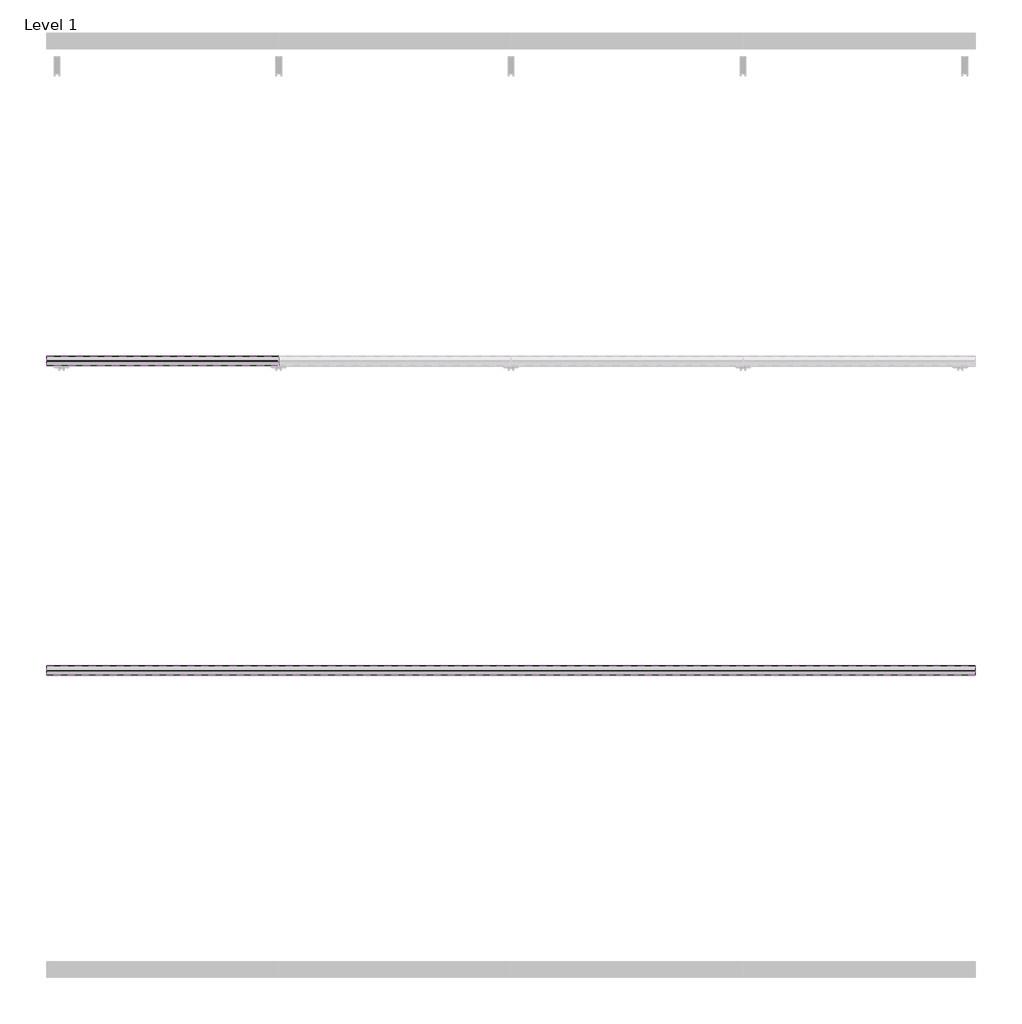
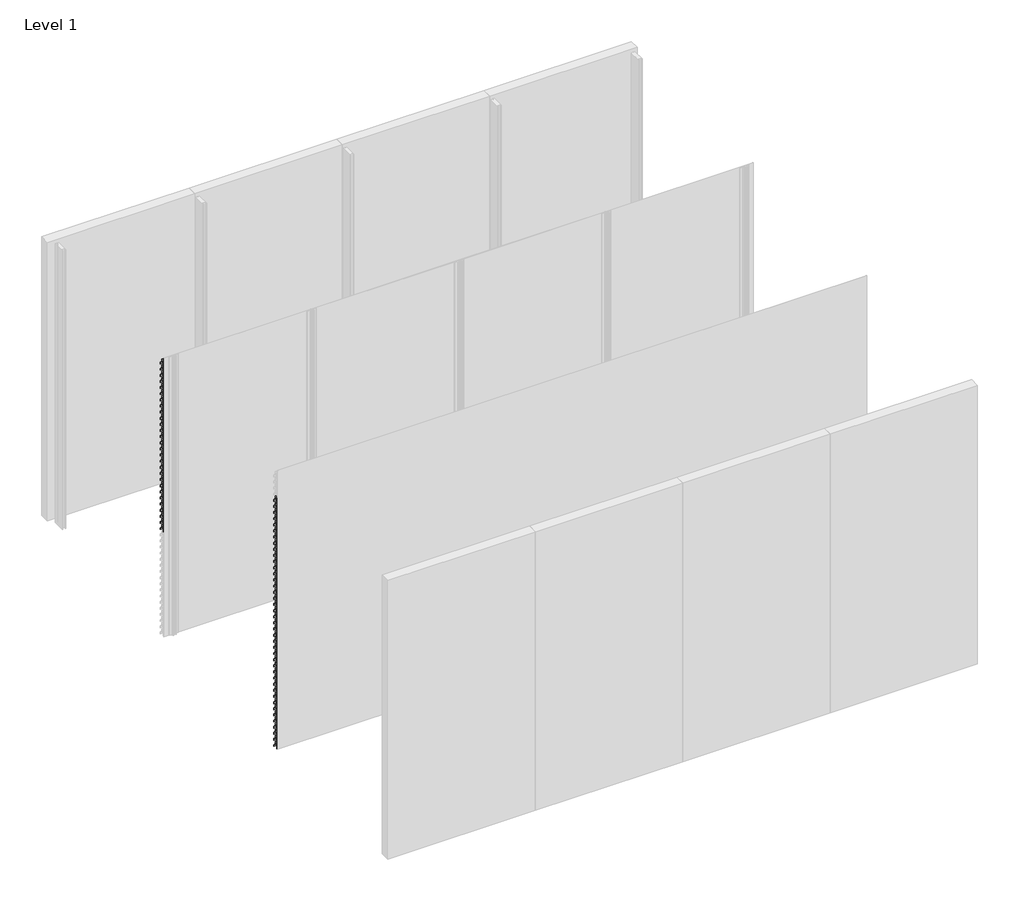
# One storey, part 3 of 35: 69 proxies.
"""IFC4 building model written with IfcOpenShell, lengths in millimetres."""

from ifc_helpers import new_model, si_unit, frame, origin, place, context, project, spatial, polyline, outline, extrude, element, save

model = new_model("IFC4")

# Units and contexts
model_context = context("Model", 3, world=origin())
ifc_project = project(units=[si_unit("LENGTHUNIT", "METRE", prefix="MILLI")], contexts=[model_context])

# Site, building, storey
site = spatial("IfcSite", under=ifc_project)
building = spatial("IfcBuilding", under=site)
storey = spatial("IfcBuildingStorey", under=building, Name="Level 1", Elevation=0.0)

# Proxies
placement = place(None, origin())
element("IfcBuildingElementProxy", 1, Name="Wall Sweeps", at=placement, inside=storey, context=model_context, shape_type="SweptSolid", body=[
    extrude(outline(polyline([(-53936.0, 2916.0), (-53936.0, 2896.0), (-53937.25, 2896.0), (-53937.25, 2915.4342979), (-53968.1138939, 2948.531772), (-53996.7, 2928.4392868), (-53996.7, 2909.6629874), (-53998.0, 2908.8506572), (-53998.0, 2929.1145472), (-53968.537525, 2949.823011), (-53968.537525, 2970.0), (-53967.1772624, 2970.0), (-53967.1772624, 2949.4335207), (-53936.0, 2916.0)])), frame((0.0, 0.0, 0.0), z_axis=(1.0, 0.0, 0.0), x_axis=(0.0, 1.0, 0.0)), (0.0, 0.0, 1.0), 1500.0),
])
element("IfcBuildingElementProxy", 2, Name="Wall Sweeps", at=placement, inside=storey, context=model_context, shape_type="SweptSolid", body=[
    extrude(outline(polyline([(-53936.0, 2850.0), (-53936.0, 2830.0), (-53937.25, 2830.0), (-53937.25, 2849.4342979), (-53968.1138939, 2882.531772), (-53996.7, 2862.4392868), (-53996.7, 2843.6629874), (-53998.0, 2842.8506572), (-53998.0, 2863.1145472), (-53968.537525, 2883.823011), (-53968.537525, 2904.0), (-53967.1772624, 2904.0), (-53967.1772624, 2883.4335207), (-53936.0, 2850.0)])), frame((0.0, 0.0, 0.0), z_axis=(1.0, 0.0, 0.0), x_axis=(0.0, 1.0, 0.0)), (0.0, 0.0, 1.0), 1500.0),
])
element("IfcBuildingElementProxy", 3, Name="Wall Sweeps", at=placement, inside=storey, context=model_context, shape_type="SweptSolid", body=[
    extrude(outline(polyline([(-53936.0, 2784.0), (-53936.0, 2764.0), (-53937.25, 2764.0), (-53937.25, 2783.4342979), (-53968.1138939, 2816.531772), (-53996.7, 2796.4392868), (-53996.7, 2777.6629874), (-53998.0, 2776.8506572), (-53998.0, 2797.1145472), (-53968.537525, 2817.823011), (-53968.537525, 2838.0), (-53967.1772624, 2838.0), (-53967.1772624, 2817.4335207), (-53936.0, 2784.0)])), frame((0.0, 0.0, 0.0), z_axis=(1.0, 0.0, 0.0), x_axis=(0.0, 1.0, 0.0)), (0.0, 0.0, 1.0), 1500.0),
])
element("IfcBuildingElementProxy", 4, Name="Wall Sweeps", at=placement, inside=storey, context=model_context, shape_type="SweptSolid", body=[
    extrude(outline(polyline([(-53936.0, 2718.0), (-53936.0, 2698.0), (-53937.25, 2698.0), (-53937.25, 2717.4342979), (-53968.1138939, 2750.531772), (-53996.7, 2730.4392868), (-53996.7, 2711.6629874), (-53998.0, 2710.8506572), (-53998.0, 2731.1145472), (-53968.537525, 2751.823011), (-53968.537525, 2772.0), (-53967.1772624, 2772.0), (-53967.1772624, 2751.4335207), (-53936.0, 2718.0)])), frame((0.0, 0.0, 0.0), z_axis=(1.0, 0.0, 0.0), x_axis=(0.0, 1.0, 0.0)), (0.0, 0.0, 1.0), 1500.0),
])
element("IfcBuildingElementProxy", 5, Name="Wall Sweeps", at=placement, inside=storey, context=model_context, shape_type="SweptSolid", body=[
    extrude(outline(polyline([(-53936.0, 2652.0), (-53936.0, 2632.0), (-53937.25, 2632.0), (-53937.25, 2651.4342979), (-53968.1138939, 2684.531772), (-53996.7, 2664.4392868), (-53996.7, 2645.6629874), (-53998.0, 2644.8506572), (-53998.0, 2665.1145472), (-53968.537525, 2685.823011), (-53968.537525, 2706.0), (-53967.1772624, 2706.0), (-53967.1772624, 2685.4335207), (-53936.0, 2652.0)])), frame((0.0, 0.0, 0.0), z_axis=(1.0, 0.0, 0.0), x_axis=(0.0, 1.0, 0.0)), (0.0, 0.0, 1.0), 1500.0),
])
element("IfcBuildingElementProxy", 6, Name="Wall Sweeps", at=placement, inside=storey, context=model_context, shape_type="SweptSolid", body=[
    extrude(outline(polyline([(-53936.0, 2586.0), (-53936.0, 2566.0), (-53937.25, 2566.0), (-53937.25, 2585.4342979), (-53968.1138939, 2618.531772), (-53996.7, 2598.4392868), (-53996.7, 2579.6629874), (-53998.0, 2578.8506572), (-53998.0, 2599.1145472), (-53968.537525, 2619.823011), (-53968.537525, 2640.0), (-53967.1772624, 2640.0), (-53967.1772624, 2619.4335207), (-53936.0, 2586.0)])), frame((0.0, 0.0, 0.0), z_axis=(1.0, 0.0, 0.0), x_axis=(0.0, 1.0, 0.0)), (0.0, 0.0, 1.0), 1500.0),
])
element("IfcBuildingElementProxy", 7, Name="Wall Sweeps", at=placement, inside=storey, context=model_context, shape_type="SweptSolid", body=[
    extrude(outline(polyline([(-53936.0, 2520.0), (-53936.0, 2500.0), (-53937.25, 2500.0), (-53937.25, 2519.4342979), (-53968.1138939, 2552.531772), (-53996.7, 2532.4392868), (-53996.7, 2513.6629874), (-53998.0, 2512.8506572), (-53998.0, 2533.1145472), (-53968.537525, 2553.823011), (-53968.537525, 2574.0), (-53967.1772624, 2574.0), (-53967.1772624, 2553.4335207), (-53936.0, 2520.0)])), frame((0.0, 0.0, 0.0), z_axis=(1.0, 0.0, 0.0), x_axis=(0.0, 1.0, 0.0)), (0.0, 0.0, 1.0), 1500.0),
])
element("IfcBuildingElementProxy", 8, Name="Wall Sweeps", at=placement, inside=storey, context=model_context, shape_type="SweptSolid", body=[
    extrude(outline(polyline([(-53936.0, 2454.0), (-53936.0, 2434.0), (-53937.25, 2434.0), (-53937.25, 2453.4342979), (-53968.1138939, 2486.531772), (-53996.7, 2466.4392868), (-53996.7, 2447.6629874), (-53998.0, 2446.8506572), (-53998.0, 2467.1145472), (-53968.537525, 2487.823011), (-53968.537525, 2508.0), (-53967.1772624, 2508.0), (-53967.1772624, 2487.4335207), (-53936.0, 2454.0)])), frame((0.0, 0.0, 0.0), z_axis=(1.0, 0.0, 0.0), x_axis=(0.0, 1.0, 0.0)), (0.0, 0.0, 1.0), 1500.0),
])
element("IfcBuildingElementProxy", 9, Name="Wall Sweeps", at=placement, inside=storey, context=model_context, shape_type="SweptSolid", body=[
    extrude(outline(polyline([(-53936.0, 2388.0), (-53936.0, 2368.0), (-53937.25, 2368.0), (-53937.25, 2387.4342979), (-53968.1138939, 2420.531772), (-53996.7, 2400.4392868), (-53996.7, 2381.6629874), (-53998.0, 2380.8506572), (-53998.0, 2401.1145472), (-53968.537525, 2421.823011), (-53968.537525, 2442.0), (-53967.1772624, 2442.0), (-53967.1772624, 2421.4335207), (-53936.0, 2388.0)])), frame((0.0, 0.0, 0.0), z_axis=(1.0, 0.0, 0.0), x_axis=(0.0, 1.0, 0.0)), (0.0, 0.0, 1.0), 1500.0),
])
element("IfcBuildingElementProxy", 10, Name="Wall Sweeps", at=placement, inside=storey, context=model_context, shape_type="SweptSolid", body=[
    extrude(outline(polyline([(-53936.0, 2322.0), (-53936.0, 2302.0), (-53937.25, 2302.0), (-53937.25, 2321.4342979), (-53968.1138939, 2354.531772), (-53996.7, 2334.4392868), (-53996.7, 2315.6629874), (-53998.0, 2314.8506572), (-53998.0, 2335.1145472), (-53968.537525, 2355.823011), (-53968.537525, 2376.0), (-53967.1772624, 2376.0), (-53967.1772624, 2355.4335207), (-53936.0, 2322.0)])), frame((0.0, 0.0, 0.0), z_axis=(1.0, 0.0, 0.0), x_axis=(0.0, 1.0, 0.0)), (0.0, 0.0, 1.0), 1500.0),
])
element("IfcBuildingElementProxy", 11, Name="Wall Sweeps", at=placement, inside=storey, context=model_context, shape_type="SweptSolid", body=[
    extrude(outline(polyline([(-53936.0, 2256.0), (-53936.0, 2236.0), (-53937.25, 2236.0), (-53937.25, 2255.4342979), (-53968.1138939, 2288.531772), (-53996.7, 2268.4392868), (-53996.7, 2249.6629874), (-53998.0, 2248.8506572), (-53998.0, 2269.1145472), (-53968.537525, 2289.823011), (-53968.537525, 2310.0), (-53967.1772624, 2310.0), (-53967.1772624, 2289.4335207), (-53936.0, 2256.0)])), frame((0.0, 0.0, 0.0), z_axis=(1.0, 0.0, 0.0), x_axis=(0.0, 1.0, 0.0)), (0.0, 0.0, 1.0), 1500.0),
])
element("IfcBuildingElementProxy", 12, Name="Wall Sweeps", at=placement, inside=storey, context=model_context, shape_type="SweptSolid", body=[
    extrude(outline(polyline([(-53936.0, 2190.0), (-53936.0, 2170.0), (-53937.25, 2170.0), (-53937.25, 2189.4342979), (-53968.1138939, 2222.531772), (-53996.7, 2202.4392868), (-53996.7, 2183.6629874), (-53998.0, 2182.8506572), (-53998.0, 2203.1145472), (-53968.537525, 2223.823011), (-53968.537525, 2244.0), (-53967.1772624, 2244.0), (-53967.1772624, 2223.4335207), (-53936.0, 2190.0)])), frame((0.0, 0.0, 0.0), z_axis=(1.0, 0.0, 0.0), x_axis=(0.0, 1.0, 0.0)), (0.0, 0.0, 1.0), 1500.0),
])
element("IfcBuildingElementProxy", 13, Name="Wall Sweeps", at=placement, inside=storey, context=model_context, shape_type="SweptSolid", body=[
    extrude(outline(polyline([(-53936.0, 2124.0), (-53936.0, 2104.0), (-53937.25, 2104.0), (-53937.25, 2123.4342979), (-53968.1138939, 2156.531772), (-53996.7, 2136.4392868), (-53996.7, 2117.6629874), (-53998.0, 2116.8506572), (-53998.0, 2137.1145472), (-53968.537525, 2157.823011), (-53968.537525, 2178.0), (-53967.1772624, 2178.0), (-53967.1772624, 2157.4335207), (-53936.0, 2124.0)])), frame((0.0, 0.0, 0.0), z_axis=(1.0, 0.0, 0.0), x_axis=(0.0, 1.0, 0.0)), (0.0, 0.0, 1.0), 1500.0),
])
element("IfcBuildingElementProxy", 14, Name="Wall Sweeps", at=placement, inside=storey, context=model_context, shape_type="SweptSolid", body=[
    extrude(outline(polyline([(-53936.0, 2058.0), (-53936.0, 2038.0), (-53937.25, 2038.0), (-53937.25, 2057.4342979), (-53968.1138939, 2090.531772), (-53996.7, 2070.4392868), (-53996.7, 2051.6629874), (-53998.0, 2050.8506572), (-53998.0, 2071.1145472), (-53968.537525, 2091.823011), (-53968.537525, 2112.0), (-53967.1772624, 2112.0), (-53967.1772624, 2091.4335207), (-53936.0, 2058.0)])), frame((0.0, 0.0, 0.0), z_axis=(1.0, 0.0, 0.0), x_axis=(0.0, 1.0, 0.0)), (0.0, 0.0, 1.0), 1500.0),
])
element("IfcBuildingElementProxy", 15, Name="Wall Sweeps", at=placement, inside=storey, context=model_context, shape_type="SweptSolid", body=[
    extrude(outline(polyline([(-53936.0, 1992.0), (-53936.0, 1972.0), (-53937.25, 1972.0), (-53937.25, 1991.4342979), (-53968.1138939, 2024.531772), (-53996.7, 2004.4392868), (-53996.7, 1985.6629874), (-53998.0, 1984.8506572), (-53998.0, 2005.1145472), (-53968.537525, 2025.823011), (-53968.537525, 2046.0), (-53967.1772624, 2046.0), (-53967.1772624, 2025.4335207), (-53936.0, 1992.0)])), frame((0.0, 0.0, 0.0), z_axis=(1.0, 0.0, 0.0), x_axis=(0.0, 1.0, 0.0)), (0.0, 0.0, 1.0), 1500.0),
])
element("IfcBuildingElementProxy", 16, Name="Wall Sweeps", at=placement, inside=storey, context=model_context, shape_type="SweptSolid", body=[
    extrude(outline(polyline([(-53936.0, 1926.0), (-53936.0, 1906.0), (-53937.25, 1906.0), (-53937.25, 1925.4342979), (-53968.1138939, 1958.531772), (-53996.7, 1938.4392868), (-53996.7, 1919.6629874), (-53998.0, 1918.8506572), (-53998.0, 1939.1145472), (-53968.537525, 1959.823011), (-53968.537525, 1980.0), (-53967.1772624, 1980.0), (-53967.1772624, 1959.4335207), (-53936.0, 1926.0)])), frame((0.0, 0.0, 0.0), z_axis=(1.0, 0.0, 0.0), x_axis=(0.0, 1.0, 0.0)), (0.0, 0.0, 1.0), 1500.0),
])
element("IfcBuildingElementProxy", 17, Name="Wall Sweeps", at=placement, inside=storey, context=model_context, shape_type="SweptSolid", body=[
    extrude(outline(polyline([(-53936.0, 1860.0), (-53936.0, 1840.0), (-53937.25, 1840.0), (-53937.25, 1859.4342979), (-53968.1138939, 1892.531772), (-53996.7, 1872.4392868), (-53996.7, 1853.6629874), (-53998.0, 1852.8506572), (-53998.0, 1873.1145472), (-53968.537525, 1893.823011), (-53968.537525, 1914.0), (-53967.1772624, 1914.0), (-53967.1772624, 1893.4335207), (-53936.0, 1860.0)])), frame((0.0, 0.0, 0.0), z_axis=(1.0, 0.0, 0.0), x_axis=(0.0, 1.0, 0.0)), (0.0, 0.0, 1.0), 1500.0),
])
element("IfcBuildingElementProxy", 18, Name="Wall Sweeps", at=placement, inside=storey, context=model_context, shape_type="SweptSolid", body=[
    extrude(outline(polyline([(-53936.0, 1794.0), (-53936.0, 1774.0), (-53937.25, 1774.0), (-53937.25, 1793.4342979), (-53968.1138939, 1826.531772), (-53996.7, 1806.4392868), (-53996.7, 1787.6629874), (-53998.0, 1786.8506572), (-53998.0, 1807.1145472), (-53968.537525, 1827.823011), (-53968.537525, 1848.0), (-53967.1772624, 1848.0), (-53967.1772624, 1827.4335207), (-53936.0, 1794.0)])), frame((0.0, 0.0, 0.0), z_axis=(1.0, 0.0, 0.0), x_axis=(0.0, 1.0, 0.0)), (0.0, 0.0, 1.0), 1500.0),
])
element("IfcBuildingElementProxy", 19, Name="Wall Sweeps", at=placement, inside=storey, context=model_context, shape_type="SweptSolid", body=[
    extrude(outline(polyline([(-53936.0, 1728.0), (-53936.0, 1708.0), (-53937.25, 1708.0), (-53937.25, 1727.4342979), (-53968.1138939, 1760.531772), (-53996.7, 1740.4392868), (-53996.7, 1721.6629874), (-53998.0, 1720.8506572), (-53998.0, 1741.1145472), (-53968.537525, 1761.823011), (-53968.537525, 1782.0), (-53967.1772624, 1782.0), (-53967.1772624, 1761.4335207), (-53936.0, 1728.0)])), frame((0.0, 0.0, 0.0), z_axis=(1.0, 0.0, 0.0), x_axis=(0.0, 1.0, 0.0)), (0.0, 0.0, 1.0), 1500.0),
])
element("IfcBuildingElementProxy", 20, Name="Wall Sweeps", at=placement, inside=storey, context=model_context, shape_type="SweptSolid", body=[
    extrude(outline(polyline([(-53936.0, 1662.0), (-53936.0, 1642.0), (-53937.25, 1642.0), (-53937.25, 1661.4342979), (-53968.1138939, 1694.531772), (-53996.7, 1674.4392868), (-53996.7, 1655.6629874), (-53998.0, 1654.8506572), (-53998.0, 1675.1145472), (-53968.537525, 1695.823011), (-53968.537525, 1716.0), (-53967.1772624, 1716.0), (-53967.1772624, 1695.4335207), (-53936.0, 1662.0)])), frame((0.0, 0.0, 0.0), z_axis=(1.0, 0.0, 0.0), x_axis=(0.0, 1.0, 0.0)), (0.0, 0.0, 1.0), 1500.0),
])
element("IfcBuildingElementProxy", 21, Name="Wall Sweeps", at=placement, inside=storey, context=model_context, shape_type="SweptSolid", body=[
    extrude(outline(polyline([(-53936.0, 1596.0), (-53936.0, 1576.0), (-53937.25, 1576.0), (-53937.25, 1595.4342979), (-53968.1138939, 1628.531772), (-53996.7, 1608.4392868), (-53996.7, 1589.6629874), (-53998.0, 1588.8506572), (-53998.0, 1609.1145472), (-53968.537525, 1629.823011), (-53968.537525, 1650.0), (-53967.1772624, 1650.0), (-53967.1772624, 1629.4335207), (-53936.0, 1596.0)])), frame((0.0, 0.0, 0.0), z_axis=(1.0, 0.0, 0.0), x_axis=(0.0, 1.0, 0.0)), (0.0, 0.0, 1.0), 1500.0),
])
element("IfcBuildingElementProxy", 22, Name="Wall Sweeps", at=placement, inside=storey, context=model_context, shape_type="SweptSolid", body=[
    extrude(outline(polyline([(-53936.0, 1530.0), (-53936.0, 1510.0), (-53937.25, 1510.0), (-53937.25, 1529.4342979), (-53968.1138939, 1562.531772), (-53996.7, 1542.4392868), (-53996.7, 1523.6629874), (-53998.0, 1522.8506572), (-53998.0, 1543.1145472), (-53968.537525, 1563.823011), (-53968.537525, 1584.0), (-53967.1772624, 1584.0), (-53967.1772624, 1563.4335207), (-53936.0, 1530.0)])), frame((0.0, 0.0, 0.0), z_axis=(1.0, 0.0, 0.0), x_axis=(0.0, 1.0, 0.0)), (0.0, 0.0, 1.0), 1500.0),
])
element("IfcBuildingElementProxy", 23, Name="Wall Sweeps", at=placement, inside=storey, context=model_context, shape_type="SweptSolid", body=[
    extrude(outline(polyline([(-53936.0, 1464.0), (-53936.0, 1444.0), (-53937.25, 1444.0), (-53937.25, 1463.4342979), (-53968.1138939, 1496.531772), (-53996.7, 1476.4392868), (-53996.7, 1457.6629874), (-53998.0, 1456.8506572), (-53998.0, 1477.1145472), (-53968.537525, 1497.823011), (-53968.537525, 1518.0), (-53967.1772624, 1518.0), (-53967.1772624, 1497.4335207), (-53936.0, 1464.0)])), frame((0.0, 0.0, 0.0), z_axis=(1.0, 0.0, 0.0), x_axis=(0.0, 1.0, 0.0)), (0.0, 0.0, 1.0), 1500.0),
])
element("IfcBuildingElementProxy", 24, Name="Wall Sweeps", at=placement, inside=storey, context=model_context, shape_type="SweptSolid", body=[
    extrude(outline(polyline([(-53936.0, 1398.0), (-53936.0, 1378.0), (-53937.25, 1378.0), (-53937.25, 1397.4342979), (-53968.1138939, 1430.531772), (-53996.7, 1410.4392868), (-53996.7, 1391.6629874), (-53998.0, 1390.8506572), (-53998.0, 1411.1145472), (-53968.537525, 1431.823011), (-53968.537525, 1452.0), (-53967.1772624, 1452.0), (-53967.1772624, 1431.4335207), (-53936.0, 1398.0)])), frame((0.0, 0.0, 0.0), z_axis=(1.0, 0.0, 0.0), x_axis=(0.0, 1.0, 0.0)), (0.0, 0.0, 1.0), 1500.0),
])
element("IfcBuildingElementProxy", 25, Name="Wall Sweeps", at=placement, inside=storey, context=model_context, shape_type="SweptSolid", body=[
    extrude(outline(polyline([(-53936.0, 1332.0), (-53936.0, 1312.0), (-53937.25, 1312.0), (-53937.25, 1331.4342979), (-53968.1138939, 1364.531772), (-53996.7, 1344.4392868), (-53996.7, 1325.6629874), (-53998.0, 1324.8506572), (-53998.0, 1345.1145472), (-53968.537525, 1365.823011), (-53968.537525, 1386.0), (-53967.1772624, 1386.0), (-53967.1772624, 1365.4335207), (-53936.0, 1332.0)])), frame((0.0, 0.0, 0.0), z_axis=(1.0, 0.0, 0.0), x_axis=(0.0, 1.0, 0.0)), (0.0, 0.0, 1.0), 1500.0),
])
element("IfcBuildingElementProxy", 26, Name="Wall Sweeps", at=placement, inside=storey, context=model_context, shape_type="SweptSolid", body=[
    extrude(outline(polyline([(-53936.0, 1266.0), (-53936.0, 1246.0), (-53937.25, 1246.0), (-53937.25, 1265.4342979), (-53968.1138939, 1298.531772), (-53996.7, 1278.4392868), (-53996.7, 1259.6629874), (-53998.0, 1258.8506572), (-53998.0, 1279.1145472), (-53968.537525, 1299.823011), (-53968.537525, 1320.0), (-53967.1772624, 1320.0), (-53967.1772624, 1299.4335207), (-53936.0, 1266.0)])), frame((0.0, 0.0, 0.0), z_axis=(1.0, 0.0, 0.0), x_axis=(0.0, 1.0, 0.0)), (0.0, 0.0, 1.0), 1500.0),
])
element("IfcBuildingElementProxy", 27, Name="Wall Sweeps", at=placement, inside=storey, context=model_context, shape_type="SweptSolid", body=[
    extrude(outline(polyline([(-53936.0, 1200.0), (-53936.0, 1180.0), (-53937.25, 1180.0), (-53937.25, 1199.4342979), (-53968.1138939, 1232.531772), (-53996.7, 1212.4392868), (-53996.7, 1193.6629874), (-53998.0, 1192.8506572), (-53998.0, 1213.1145472), (-53968.537525, 1233.823011), (-53968.537525, 1254.0), (-53967.1772624, 1254.0), (-53967.1772624, 1233.4335207), (-53936.0, 1200.0)])), frame((0.0, 0.0, 0.0), z_axis=(1.0, 0.0, 0.0), x_axis=(0.0, 1.0, 0.0)), (0.0, 0.0, 1.0), 1500.0),
])
element("IfcBuildingElementProxy", 28, Name="Wall Sweeps", at=placement, inside=storey, context=model_context, shape_type="SweptSolid", body=[
    extrude(outline(polyline([(-53936.0, 1134.0), (-53936.0, 1114.0), (-53937.25, 1114.0), (-53937.25, 1133.4342979), (-53968.1138939, 1166.531772), (-53996.7, 1146.4392868), (-53996.7, 1127.6629874), (-53998.0, 1126.8506572), (-53998.0, 1147.1145472), (-53968.537525, 1167.823011), (-53968.537525, 1188.0), (-53967.1772624, 1188.0), (-53967.1772624, 1167.4335207), (-53936.0, 1134.0)])), frame((0.0, 0.0, 0.0), z_axis=(1.0, 0.0, 0.0), x_axis=(0.0, 1.0, 0.0)), (0.0, 0.0, 1.0), 1500.0),
])
element("IfcBuildingElementProxy", 29, Name="Wall Sweeps", at=placement, inside=storey, context=model_context, shape_type="SweptSolid", body=[
    extrude(outline(polyline([(-55936.0, 2652.0), (-55936.0, 2632.0), (-55937.25, 2632.0), (-55937.25, 2651.4342979), (-55968.1138939, 2684.531772), (-55996.7, 2664.4392868), (-55996.7, 2645.6629874), (-55998.0, 2644.8506572), (-55998.0, 2665.1145472), (-55968.537525, 2685.823011), (-55968.537525, 2706.0), (-55967.1772624, 2706.0), (-55967.1772624, 2685.4335207), (-55936.0, 2652.0)])), frame((0.0, 0.0, 0.0), z_axis=(1.0, 0.0, 0.0), x_axis=(0.0, 1.0, 0.0)), (0.0, 0.0, 1.0), 6000.0),
])
element("IfcBuildingElementProxy", 30, Name="Wall Sweeps", at=placement, inside=storey, context=model_context, shape_type="SweptSolid", body=[
    extrude(outline(polyline([(-55936.0, 2586.0), (-55936.0, 2566.0), (-55937.25, 2566.0), (-55937.25, 2585.4342979), (-55968.1138939, 2618.531772), (-55996.7, 2598.4392868), (-55996.7, 2579.6629874), (-55998.0, 2578.8506572), (-55998.0, 2599.1145472), (-55968.537525, 2619.823011), (-55968.537525, 2640.0), (-55967.1772624, 2640.0), (-55967.1772624, 2619.4335207), (-55936.0, 2586.0)])), frame((0.0, 0.0, 0.0), z_axis=(1.0, 0.0, 0.0), x_axis=(0.0, 1.0, 0.0)), (0.0, 0.0, 1.0), 6000.0),
])
element("IfcBuildingElementProxy", 31, Name="Wall Sweeps", at=placement, inside=storey, context=model_context, shape_type="SweptSolid", body=[
    extrude(outline(polyline([(-55936.0, 2520.0), (-55936.0, 2500.0), (-55937.25, 2500.0), (-55937.25, 2519.4342979), (-55968.1138939, 2552.531772), (-55996.7, 2532.4392868), (-55996.7, 2513.6629874), (-55998.0, 2512.8506572), (-55998.0, 2533.1145472), (-55968.537525, 2553.823011), (-55968.537525, 2574.0), (-55967.1772624, 2574.0), (-55967.1772624, 2553.4335207), (-55936.0, 2520.0)])), frame((0.0, 0.0, 0.0), z_axis=(1.0, 0.0, 0.0), x_axis=(0.0, 1.0, 0.0)), (0.0, 0.0, 1.0), 6000.0),
])
element("IfcBuildingElementProxy", 32, Name="Wall Sweeps", at=placement, inside=storey, context=model_context, shape_type="SweptSolid", body=[
    extrude(outline(polyline([(-55936.0, 2454.0), (-55936.0, 2434.0), (-55937.25, 2434.0), (-55937.25, 2453.4342979), (-55968.1138939, 2486.531772), (-55996.7, 2466.4392868), (-55996.7, 2447.6629874), (-55998.0, 2446.8506572), (-55998.0, 2467.1145472), (-55968.537525, 2487.823011), (-55968.537525, 2508.0), (-55967.1772624, 2508.0), (-55967.1772624, 2487.4335207), (-55936.0, 2454.0)])), frame((0.0, 0.0, 0.0), z_axis=(1.0, 0.0, 0.0), x_axis=(0.0, 1.0, 0.0)), (0.0, 0.0, 1.0), 6000.0),
])
element("IfcBuildingElementProxy", 33, Name="Wall Sweeps", at=placement, inside=storey, context=model_context, shape_type="SweptSolid", body=[
    extrude(outline(polyline([(-55936.0, 2388.0), (-55936.0, 2368.0), (-55937.25, 2368.0), (-55937.25, 2387.4342979), (-55968.1138939, 2420.531772), (-55996.7, 2400.4392868), (-55996.7, 2381.6629874), (-55998.0, 2380.8506572), (-55998.0, 2401.1145472), (-55968.537525, 2421.823011), (-55968.537525, 2442.0), (-55967.1772624, 2442.0), (-55967.1772624, 2421.4335207), (-55936.0, 2388.0)])), frame((0.0, 0.0, 0.0), z_axis=(1.0, 0.0, 0.0), x_axis=(0.0, 1.0, 0.0)), (0.0, 0.0, 1.0), 6000.0),
])
element("IfcBuildingElementProxy", 34, Name="Wall Sweeps", at=placement, inside=storey, context=model_context, shape_type="SweptSolid", body=[
    extrude(outline(polyline([(-55936.0, 2322.0), (-55936.0, 2302.0), (-55937.25, 2302.0), (-55937.25, 2321.4342979), (-55968.1138939, 2354.531772), (-55996.7, 2334.4392868), (-55996.7, 2315.6629874), (-55998.0, 2314.8506572), (-55998.0, 2335.1145472), (-55968.537525, 2355.823011), (-55968.537525, 2376.0), (-55967.1772624, 2376.0), (-55967.1772624, 2355.4335207), (-55936.0, 2322.0)])), frame((0.0, 0.0, 0.0), z_axis=(1.0, 0.0, 0.0), x_axis=(0.0, 1.0, 0.0)), (0.0, 0.0, 1.0), 6000.0),
])
element("IfcBuildingElementProxy", 35, Name="Wall Sweeps", at=placement, inside=storey, context=model_context, shape_type="SweptSolid", body=[
    extrude(outline(polyline([(-55936.0, 2256.0), (-55936.0, 2236.0), (-55937.25, 2236.0), (-55937.25, 2255.4342979), (-55968.1138939, 2288.531772), (-55996.7, 2268.4392868), (-55996.7, 2249.6629874), (-55998.0, 2248.8506572), (-55998.0, 2269.1145472), (-55968.537525, 2289.823011), (-55968.537525, 2310.0), (-55967.1772624, 2310.0), (-55967.1772624, 2289.4335207), (-55936.0, 2256.0)])), frame((0.0, 0.0, 0.0), z_axis=(1.0, 0.0, 0.0), x_axis=(0.0, 1.0, 0.0)), (0.0, 0.0, 1.0), 6000.0),
])
element("IfcBuildingElementProxy", 36, Name="Wall Sweeps", at=placement, inside=storey, context=model_context, shape_type="SweptSolid", body=[
    extrude(outline(polyline([(-55936.0, 2190.0), (-55936.0, 2170.0), (-55937.25, 2170.0), (-55937.25, 2189.4342979), (-55968.1138939, 2222.531772), (-55996.7, 2202.4392868), (-55996.7, 2183.6629874), (-55998.0, 2182.8506572), (-55998.0, 2203.1145472), (-55968.537525, 2223.823011), (-55968.537525, 2244.0), (-55967.1772624, 2244.0), (-55967.1772624, 2223.4335207), (-55936.0, 2190.0)])), frame((0.0, 0.0, 0.0), z_axis=(1.0, 0.0, 0.0), x_axis=(0.0, 1.0, 0.0)), (0.0, 0.0, 1.0), 6000.0),
])
element("IfcBuildingElementProxy", 37, Name="Wall Sweeps", at=placement, inside=storey, context=model_context, shape_type="SweptSolid", body=[
    extrude(outline(polyline([(-55936.0, 2124.0), (-55936.0, 2104.0), (-55937.25, 2104.0), (-55937.25, 2123.4342979), (-55968.1138939, 2156.531772), (-55996.7, 2136.4392868), (-55996.7, 2117.6629874), (-55998.0, 2116.8506572), (-55998.0, 2137.1145472), (-55968.537525, 2157.823011), (-55968.537525, 2178.0), (-55967.1772624, 2178.0), (-55967.1772624, 2157.4335207), (-55936.0, 2124.0)])), frame((0.0, 0.0, 0.0), z_axis=(1.0, 0.0, 0.0), x_axis=(0.0, 1.0, 0.0)), (0.0, 0.0, 1.0), 6000.0),
])
element("IfcBuildingElementProxy", 38, Name="Wall Sweeps", at=placement, inside=storey, context=model_context, shape_type="SweptSolid", body=[
    extrude(outline(polyline([(-55936.0, 2058.0), (-55936.0, 2038.0), (-55937.25, 2038.0), (-55937.25, 2057.4342979), (-55968.1138939, 2090.531772), (-55996.7, 2070.4392868), (-55996.7, 2051.6629874), (-55998.0, 2050.8506572), (-55998.0, 2071.1145472), (-55968.537525, 2091.823011), (-55968.537525, 2112.0), (-55967.1772624, 2112.0), (-55967.1772624, 2091.4335207), (-55936.0, 2058.0)])), frame((0.0, 0.0, 0.0), z_axis=(1.0, 0.0, 0.0), x_axis=(0.0, 1.0, 0.0)), (0.0, 0.0, 1.0), 6000.0),
])
element("IfcBuildingElementProxy", 39, Name="Wall Sweeps", at=placement, inside=storey, context=model_context, shape_type="SweptSolid", body=[
    extrude(outline(polyline([(-55936.0, 1992.0), (-55936.0, 1972.0), (-55937.25, 1972.0), (-55937.25, 1991.4342979), (-55968.1138939, 2024.531772), (-55996.7, 2004.4392868), (-55996.7, 1985.6629874), (-55998.0, 1984.8506572), (-55998.0, 2005.1145472), (-55968.537525, 2025.823011), (-55968.537525, 2046.0), (-55967.1772624, 2046.0), (-55967.1772624, 2025.4335207), (-55936.0, 1992.0)])), frame((0.0, 0.0, 0.0), z_axis=(1.0, 0.0, 0.0), x_axis=(0.0, 1.0, 0.0)), (0.0, 0.0, 1.0), 6000.0),
])
element("IfcBuildingElementProxy", 40, Name="Wall Sweeps", at=placement, inside=storey, context=model_context, shape_type="SweptSolid", body=[
    extrude(outline(polyline([(-55936.0, 1926.0), (-55936.0, 1906.0), (-55937.25, 1906.0), (-55937.25, 1925.4342979), (-55968.1138939, 1958.531772), (-55996.7, 1938.4392868), (-55996.7, 1919.6629874), (-55998.0, 1918.8506572), (-55998.0, 1939.1145472), (-55968.537525, 1959.823011), (-55968.537525, 1980.0), (-55967.1772624, 1980.0), (-55967.1772624, 1959.4335207), (-55936.0, 1926.0)])), frame((0.0, 0.0, 0.0), z_axis=(1.0, 0.0, 0.0), x_axis=(0.0, 1.0, 0.0)), (0.0, 0.0, 1.0), 6000.0),
])
element("IfcBuildingElementProxy", 41, Name="Wall Sweeps", at=placement, inside=storey, context=model_context, shape_type="SweptSolid", body=[
    extrude(outline(polyline([(-55936.0, 1860.0), (-55936.0, 1840.0), (-55937.25, 1840.0), (-55937.25, 1859.4342979), (-55968.1138939, 1892.531772), (-55996.7, 1872.4392868), (-55996.7, 1853.6629874), (-55998.0, 1852.8506572), (-55998.0, 1873.1145472), (-55968.537525, 1893.823011), (-55968.537525, 1914.0), (-55967.1772624, 1914.0), (-55967.1772624, 1893.4335207), (-55936.0, 1860.0)])), frame((0.0, 0.0, 0.0), z_axis=(1.0, 0.0, 0.0), x_axis=(0.0, 1.0, 0.0)), (0.0, 0.0, 1.0), 6000.0),
])
element("IfcBuildingElementProxy", 42, Name="Wall Sweeps", at=placement, inside=storey, context=model_context, shape_type="SweptSolid", body=[
    extrude(outline(polyline([(-55936.0, 1794.0), (-55936.0, 1774.0), (-55937.25, 1774.0), (-55937.25, 1793.4342979), (-55968.1138939, 1826.531772), (-55996.7, 1806.4392868), (-55996.7, 1787.6629874), (-55998.0, 1786.8506572), (-55998.0, 1807.1145472), (-55968.537525, 1827.823011), (-55968.537525, 1848.0), (-55967.1772624, 1848.0), (-55967.1772624, 1827.4335207), (-55936.0, 1794.0)])), frame((0.0, 0.0, 0.0), z_axis=(1.0, 0.0, 0.0), x_axis=(0.0, 1.0, 0.0)), (0.0, 0.0, 1.0), 6000.0),
])
element("IfcBuildingElementProxy", 43, Name="Wall Sweeps", at=placement, inside=storey, context=model_context, shape_type="SweptSolid", body=[
    extrude(outline(polyline([(-55936.0, 1728.0), (-55936.0, 1708.0), (-55937.25, 1708.0), (-55937.25, 1727.4342979), (-55968.1138939, 1760.531772), (-55996.7, 1740.4392868), (-55996.7, 1721.6629874), (-55998.0, 1720.8506572), (-55998.0, 1741.1145472), (-55968.537525, 1761.823011), (-55968.537525, 1782.0), (-55967.1772624, 1782.0), (-55967.1772624, 1761.4335207), (-55936.0, 1728.0)])), frame((0.0, 0.0, 0.0), z_axis=(1.0, 0.0, 0.0), x_axis=(0.0, 1.0, 0.0)), (0.0, 0.0, 1.0), 6000.0),
])
element("IfcBuildingElementProxy", 44, Name="Wall Sweeps", at=placement, inside=storey, context=model_context, shape_type="SweptSolid", body=[
    extrude(outline(polyline([(-55936.0, 1662.0), (-55936.0, 1642.0), (-55937.25, 1642.0), (-55937.25, 1661.4342979), (-55968.1138939, 1694.531772), (-55996.7, 1674.4392868), (-55996.7, 1655.6629874), (-55998.0, 1654.8506572), (-55998.0, 1675.1145472), (-55968.537525, 1695.823011), (-55968.537525, 1716.0), (-55967.1772624, 1716.0), (-55967.1772624, 1695.4335207), (-55936.0, 1662.0)])), frame((0.0, 0.0, 0.0), z_axis=(1.0, 0.0, 0.0), x_axis=(0.0, 1.0, 0.0)), (0.0, 0.0, 1.0), 6000.0),
])
element("IfcBuildingElementProxy", 45, Name="Wall Sweeps", at=placement, inside=storey, context=model_context, shape_type="SweptSolid", body=[
    extrude(outline(polyline([(-55936.0, 1596.0), (-55936.0, 1576.0), (-55937.25, 1576.0), (-55937.25, 1595.4342979), (-55968.1138939, 1628.531772), (-55996.7, 1608.4392868), (-55996.7, 1589.6629874), (-55998.0, 1588.8506572), (-55998.0, 1609.1145472), (-55968.537525, 1629.823011), (-55968.537525, 1650.0), (-55967.1772624, 1650.0), (-55967.1772624, 1629.4335207), (-55936.0, 1596.0)])), frame((0.0, 0.0, 0.0), z_axis=(1.0, 0.0, 0.0), x_axis=(0.0, 1.0, 0.0)), (0.0, 0.0, 1.0), 6000.0),
])
element("IfcBuildingElementProxy", 46, Name="Wall Sweeps", at=placement, inside=storey, context=model_context, shape_type="SweptSolid", body=[
    extrude(outline(polyline([(-55936.0, 1530.0), (-55936.0, 1510.0), (-55937.25, 1510.0), (-55937.25, 1529.4342979), (-55968.1138939, 1562.531772), (-55996.7, 1542.4392868), (-55996.7, 1523.6629874), (-55998.0, 1522.8506572), (-55998.0, 1543.1145472), (-55968.537525, 1563.823011), (-55968.537525, 1584.0), (-55967.1772624, 1584.0), (-55967.1772624, 1563.4335207), (-55936.0, 1530.0)])), frame((0.0, 0.0, 0.0), z_axis=(1.0, 0.0, 0.0), x_axis=(0.0, 1.0, 0.0)), (0.0, 0.0, 1.0), 6000.0),
])
element("IfcBuildingElementProxy", 47, Name="Wall Sweeps", at=placement, inside=storey, context=model_context, shape_type="SweptSolid", body=[
    extrude(outline(polyline([(-55936.0, 1464.0), (-55936.0, 1444.0), (-55937.25, 1444.0), (-55937.25, 1463.4342979), (-55968.1138939, 1496.531772), (-55996.7, 1476.4392868), (-55996.7, 1457.6629874), (-55998.0, 1456.8506572), (-55998.0, 1477.1145472), (-55968.537525, 1497.823011), (-55968.537525, 1518.0), (-55967.1772624, 1518.0), (-55967.1772624, 1497.4335207), (-55936.0, 1464.0)])), frame((0.0, 0.0, 0.0), z_axis=(1.0, 0.0, 0.0), x_axis=(0.0, 1.0, 0.0)), (0.0, 0.0, 1.0), 6000.0),
])
element("IfcBuildingElementProxy", 48, Name="Wall Sweeps", at=placement, inside=storey, context=model_context, shape_type="SweptSolid", body=[
    extrude(outline(polyline([(-55936.0, 1398.0), (-55936.0, 1378.0), (-55937.25, 1378.0), (-55937.25, 1397.4342979), (-55968.1138939, 1430.531772), (-55996.7, 1410.4392868), (-55996.7, 1391.6629874), (-55998.0, 1390.8506572), (-55998.0, 1411.1145472), (-55968.537525, 1431.823011), (-55968.537525, 1452.0), (-55967.1772624, 1452.0), (-55967.1772624, 1431.4335207), (-55936.0, 1398.0)])), frame((0.0, 0.0, 0.0), z_axis=(1.0, 0.0, 0.0), x_axis=(0.0, 1.0, 0.0)), (0.0, 0.0, 1.0), 6000.0),
])
element("IfcBuildingElementProxy", 49, Name="Wall Sweeps", at=placement, inside=storey, context=model_context, shape_type="SweptSolid", body=[
    extrude(outline(polyline([(-55936.0, 1332.0), (-55936.0, 1312.0), (-55937.25, 1312.0), (-55937.25, 1331.4342979), (-55968.1138939, 1364.531772), (-55996.7, 1344.4392868), (-55996.7, 1325.6629874), (-55998.0, 1324.8506572), (-55998.0, 1345.1145472), (-55968.537525, 1365.823011), (-55968.537525, 1386.0), (-55967.1772624, 1386.0), (-55967.1772624, 1365.4335207), (-55936.0, 1332.0)])), frame((0.0, 0.0, 0.0), z_axis=(1.0, 0.0, 0.0), x_axis=(0.0, 1.0, 0.0)), (0.0, 0.0, 1.0), 6000.0),
])
element("IfcBuildingElementProxy", 50, Name="Wall Sweeps", at=placement, inside=storey, context=model_context, shape_type="SweptSolid", body=[
    extrude(outline(polyline([(-55936.0, 1266.0), (-55936.0, 1246.0), (-55937.25, 1246.0), (-55937.25, 1265.4342979), (-55968.1138939, 1298.531772), (-55996.7, 1278.4392868), (-55996.7, 1259.6629874), (-55998.0, 1258.8506572), (-55998.0, 1279.1145472), (-55968.537525, 1299.823011), (-55968.537525, 1320.0), (-55967.1772624, 1320.0), (-55967.1772624, 1299.4335207), (-55936.0, 1266.0)])), frame((0.0, 0.0, 0.0), z_axis=(1.0, 0.0, 0.0), x_axis=(0.0, 1.0, 0.0)), (0.0, 0.0, 1.0), 6000.0),
])
element("IfcBuildingElementProxy", 51, Name="Wall Sweeps", at=placement, inside=storey, context=model_context, shape_type="SweptSolid", body=[
    extrude(outline(polyline([(-55936.0, 1200.0), (-55936.0, 1180.0), (-55937.25, 1180.0), (-55937.25, 1199.4342979), (-55968.1138939, 1232.531772), (-55996.7, 1212.4392868), (-55996.7, 1193.6629874), (-55998.0, 1192.8506572), (-55998.0, 1213.1145472), (-55968.537525, 1233.823011), (-55968.537525, 1254.0), (-55967.1772624, 1254.0), (-55967.1772624, 1233.4335207), (-55936.0, 1200.0)])), frame((0.0, 0.0, 0.0), z_axis=(1.0, 0.0, 0.0), x_axis=(0.0, 1.0, 0.0)), (0.0, 0.0, 1.0), 6000.0),
])
element("IfcBuildingElementProxy", 52, Name="Wall Sweeps", at=placement, inside=storey, context=model_context, shape_type="SweptSolid", body=[
    extrude(outline(polyline([(-55936.0, 1134.0), (-55936.0, 1114.0), (-55937.25, 1114.0), (-55937.25, 1133.4342979), (-55968.1138939, 1166.531772), (-55996.7, 1146.4392868), (-55996.7, 1127.6629874), (-55998.0, 1126.8506572), (-55998.0, 1147.1145472), (-55968.537525, 1167.823011), (-55968.537525, 1188.0), (-55967.1772624, 1188.0), (-55967.1772624, 1167.4335207), (-55936.0, 1134.0)])), frame((0.0, 0.0, 0.0), z_axis=(1.0, 0.0, 0.0), x_axis=(0.0, 1.0, 0.0)), (0.0, 0.0, 1.0), 6000.0),
])
element("IfcBuildingElementProxy", 53, Name="Wall Sweeps", at=placement, inside=storey, context=model_context, shape_type="SweptSolid", body=[
    extrude(outline(polyline([(-55936.0, 1068.0), (-55936.0, 1048.0), (-55937.25, 1048.0), (-55937.25, 1067.4342979), (-55968.1138939, 1100.531772), (-55996.7, 1080.4392868), (-55996.7, 1061.6629874), (-55998.0, 1060.8506572), (-55998.0, 1081.1145472), (-55968.537525, 1101.823011), (-55968.537525, 1122.0), (-55967.1772624, 1122.0), (-55967.1772624, 1101.4335207), (-55936.0, 1068.0)])), frame((0.0, 0.0, 0.0), z_axis=(1.0, 0.0, 0.0), x_axis=(0.0, 1.0, 0.0)), (0.0, 0.0, 1.0), 6000.0),
])
element("IfcBuildingElementProxy", 54, Name="Wall Sweeps", at=placement, inside=storey, context=model_context, shape_type="SweptSolid", body=[
    extrude(outline(polyline([(-55936.0, 1002.0), (-55936.0, 982.0), (-55937.25, 982.0), (-55937.25, 1001.4342979), (-55968.1138939, 1034.531772), (-55996.7, 1014.4392868), (-55996.7, 995.6629874), (-55998.0, 994.8506572), (-55998.0, 1015.1145472), (-55968.537525, 1035.823011), (-55968.537525, 1056.0), (-55967.1772624, 1056.0), (-55967.1772624, 1035.4335207), (-55936.0, 1002.0)])), frame((0.0, 0.0, 0.0), z_axis=(1.0, 0.0, 0.0), x_axis=(0.0, 1.0, 0.0)), (0.0, 0.0, 1.0), 6000.0),
])
element("IfcBuildingElementProxy", 55, Name="Wall Sweeps", at=placement, inside=storey, context=model_context, shape_type="SweptSolid", body=[
    extrude(outline(polyline([(-55936.0, 936.0), (-55936.0, 916.0), (-55937.25, 916.0), (-55937.25, 935.4342979), (-55968.1138939, 968.531772), (-55996.7, 948.4392868), (-55996.7, 929.6629874), (-55998.0, 928.8506572), (-55998.0, 949.1145472), (-55968.537525, 969.823011), (-55968.537525, 990.0), (-55967.1772624, 990.0), (-55967.1772624, 969.4335207), (-55936.0, 936.0)])), frame((0.0, 0.0, 0.0), z_axis=(1.0, 0.0, 0.0), x_axis=(0.0, 1.0, 0.0)), (0.0, 0.0, 1.0), 6000.0),
])
element("IfcBuildingElementProxy", 56, Name="Wall Sweeps", at=placement, inside=storey, context=model_context, shape_type="SweptSolid", body=[
    extrude(outline(polyline([(-55936.0, 870.0), (-55936.0, 850.0), (-55937.25, 850.0), (-55937.25, 869.4342979), (-55968.1138939, 902.531772), (-55996.7, 882.4392868), (-55996.7, 863.6629874), (-55998.0, 862.8506572), (-55998.0, 883.1145472), (-55968.537525, 903.823011), (-55968.537525, 924.0), (-55967.1772624, 924.0), (-55967.1772624, 903.4335207), (-55936.0, 870.0)])), frame((0.0, 0.0, 0.0), z_axis=(1.0, 0.0, 0.0), x_axis=(0.0, 1.0, 0.0)), (0.0, 0.0, 1.0), 6000.0),
])
element("IfcBuildingElementProxy", 57, Name="Wall Sweeps", at=placement, inside=storey, context=model_context, shape_type="SweptSolid", body=[
    extrude(outline(polyline([(-55936.0, 804.0), (-55936.0, 784.0), (-55937.25, 784.0), (-55937.25, 803.4342979), (-55968.1138939, 836.531772), (-55996.7, 816.4392868), (-55996.7, 797.6629874), (-55998.0, 796.8506572), (-55998.0, 817.1145472), (-55968.537525, 837.823011), (-55968.537525, 858.0), (-55967.1772624, 858.0), (-55967.1772624, 837.4335207), (-55936.0, 804.0)])), frame((0.0, 0.0, 0.0), z_axis=(1.0, 0.0, 0.0), x_axis=(0.0, 1.0, 0.0)), (0.0, 0.0, 1.0), 6000.0),
])
element("IfcBuildingElementProxy", 58, Name="Wall Sweeps", at=placement, inside=storey, context=model_context, shape_type="SweptSolid", body=[
    extrude(outline(polyline([(-55936.0, 738.0), (-55936.0, 718.0), (-55937.25, 718.0), (-55937.25, 737.4342979), (-55968.1138939, 770.531772), (-55996.7, 750.4392868), (-55996.7, 731.6629874), (-55998.0, 730.8506572), (-55998.0, 751.1145472), (-55968.537525, 771.823011), (-55968.537525, 792.0), (-55967.1772624, 792.0), (-55967.1772624, 771.4335207), (-55936.0, 738.0)])), frame((0.0, 0.0, 0.0), z_axis=(1.0, 0.0, 0.0), x_axis=(0.0, 1.0, 0.0)), (0.0, 0.0, 1.0), 6000.0),
])
element("IfcBuildingElementProxy", 59, Name="Wall Sweeps", at=placement, inside=storey, context=model_context, shape_type="SweptSolid", body=[
    extrude(outline(polyline([(-55936.0, 672.0), (-55936.0, 652.0), (-55937.25, 652.0), (-55937.25, 671.4342979), (-55968.1138939, 704.531772), (-55996.7, 684.4392868), (-55996.7, 665.6629874), (-55998.0, 664.8506572), (-55998.0, 685.1145472), (-55968.537525, 705.823011), (-55968.537525, 726.0), (-55967.1772624, 726.0), (-55967.1772624, 705.4335207), (-55936.0, 672.0)])), frame((0.0, 0.0, 0.0), z_axis=(1.0, 0.0, 0.0), x_axis=(0.0, 1.0, 0.0)), (0.0, 0.0, 1.0), 6000.0),
])
element("IfcBuildingElementProxy", 60, Name="Wall Sweeps", at=placement, inside=storey, context=model_context, shape_type="SweptSolid", body=[
    extrude(outline(polyline([(-55936.0, 606.0), (-55936.0, 586.0), (-55937.25, 586.0), (-55937.25, 605.4342979), (-55968.1138939, 638.531772), (-55996.7, 618.4392868), (-55996.7, 599.6629874), (-55998.0, 598.8506572), (-55998.0, 619.1145472), (-55968.537525, 639.823011), (-55968.537525, 660.0), (-55967.1772624, 660.0), (-55967.1772624, 639.4335207), (-55936.0, 606.0)])), frame((0.0, 0.0, 0.0), z_axis=(1.0, 0.0, 0.0), x_axis=(0.0, 1.0, 0.0)), (0.0, 0.0, 1.0), 6000.0),
])
element("IfcBuildingElementProxy", 61, Name="Wall Sweeps", at=placement, inside=storey, context=model_context, shape_type="SweptSolid", body=[
    extrude(outline(polyline([(-55936.0, 540.0), (-55936.0, 520.0), (-55937.25, 520.0), (-55937.25, 539.4342979), (-55968.1138939, 572.531772), (-55996.7, 552.4392868), (-55996.7, 533.6629874), (-55998.0, 532.8506572), (-55998.0, 553.1145472), (-55968.537525, 573.823011), (-55968.537525, 594.0), (-55967.1772624, 594.0), (-55967.1772624, 573.4335207), (-55936.0, 540.0)])), frame((0.0, 0.0, 0.0), z_axis=(1.0, 0.0, 0.0), x_axis=(0.0, 1.0, 0.0)), (0.0, 0.0, 1.0), 6000.0),
])
element("IfcBuildingElementProxy", 62, Name="Wall Sweeps", at=placement, inside=storey, context=model_context, shape_type="SweptSolid", body=[
    extrude(outline(polyline([(-55936.0, 474.0), (-55936.0, 454.0), (-55937.25, 454.0), (-55937.25, 473.4342979), (-55968.1138939, 506.531772), (-55996.7, 486.4392868), (-55996.7, 467.6629874), (-55998.0, 466.8506572), (-55998.0, 487.1145472), (-55968.537525, 507.823011), (-55968.537525, 528.0), (-55967.1772624, 528.0), (-55967.1772624, 507.4335207), (-55936.0, 474.0)])), frame((0.0, 0.0, 0.0), z_axis=(1.0, 0.0, 0.0), x_axis=(0.0, 1.0, 0.0)), (0.0, 0.0, 1.0), 6000.0),
])
element("IfcBuildingElementProxy", 63, Name="Wall Sweeps", at=placement, inside=storey, context=model_context, shape_type="SweptSolid", body=[
    extrude(outline(polyline([(-55936.0, 408.0), (-55936.0, 388.0), (-55937.25, 388.0), (-55937.25, 407.4342979), (-55968.1138939, 440.531772), (-55996.7, 420.4392868), (-55996.7, 401.6629874), (-55998.0, 400.8506572), (-55998.0, 421.1145472), (-55968.537525, 441.823011), (-55968.537525, 462.0), (-55967.1772624, 462.0), (-55967.1772624, 441.4335207), (-55936.0, 408.0)])), frame((0.0, 0.0, 0.0), z_axis=(1.0, 0.0, 0.0), x_axis=(0.0, 1.0, 0.0)), (0.0, 0.0, 1.0), 6000.0),
])
element("IfcBuildingElementProxy", 64, Name="Wall Sweeps", at=placement, inside=storey, context=model_context, shape_type="SweptSolid", body=[
    extrude(outline(polyline([(-55936.0, 342.0), (-55936.0, 322.0), (-55937.25, 322.0), (-55937.25, 341.4342979), (-55968.1138939, 374.531772), (-55996.7, 354.4392868), (-55996.7, 335.6629874), (-55998.0, 334.8506572), (-55998.0, 355.1145472), (-55968.537525, 375.823011), (-55968.537525, 396.0), (-55967.1772624, 396.0), (-55967.1772624, 375.4335207), (-55936.0, 342.0)])), frame((0.0, 0.0, 0.0), z_axis=(1.0, 0.0, 0.0), x_axis=(0.0, 1.0, 0.0)), (0.0, 0.0, 1.0), 6000.0),
])
element("IfcBuildingElementProxy", 65, Name="Wall Sweeps", at=placement, inside=storey, context=model_context, shape_type="SweptSolid", body=[
    extrude(outline(polyline([(-55936.0, 276.0), (-55936.0, 256.0), (-55937.25, 256.0), (-55937.25, 275.4342979), (-55968.1138939, 308.531772), (-55996.7, 288.4392868), (-55996.7, 269.6629874), (-55998.0, 268.8506572), (-55998.0, 289.1145472), (-55968.537525, 309.823011), (-55968.537525, 330.0), (-55967.1772624, 330.0), (-55967.1772624, 309.4335207), (-55936.0, 276.0)])), frame((0.0, 0.0, 0.0), z_axis=(1.0, 0.0, 0.0), x_axis=(0.0, 1.0, 0.0)), (0.0, 0.0, 1.0), 6000.0),
])
element("IfcBuildingElementProxy", 66, Name="Wall Sweeps", at=placement, inside=storey, context=model_context, shape_type="SweptSolid", body=[
    extrude(outline(polyline([(-55936.0, 210.0), (-55936.0, 190.0), (-55937.25, 190.0), (-55937.25, 209.4342979), (-55968.1138939, 242.531772), (-55996.7, 222.4392868), (-55996.7, 203.6629874), (-55998.0, 202.8506572), (-55998.0, 223.1145472), (-55968.537525, 243.823011), (-55968.537525, 264.0), (-55967.1772624, 264.0), (-55967.1772624, 243.4335207), (-55936.0, 210.0)])), frame((0.0, 0.0, 0.0), z_axis=(1.0, 0.0, 0.0), x_axis=(0.0, 1.0, 0.0)), (0.0, 0.0, 1.0), 6000.0),
])
element("IfcBuildingElementProxy", 67, Name="Wall Sweeps", at=placement, inside=storey, context=model_context, shape_type="SweptSolid", body=[
    extrude(outline(polyline([(-55936.0, 144.0), (-55936.0, 124.0), (-55937.25, 124.0), (-55937.25, 143.4342979), (-55968.1138939, 176.531772), (-55996.7, 156.4392868), (-55996.7, 137.6629874), (-55998.0, 136.8506572), (-55998.0, 157.1145472), (-55968.537525, 177.823011), (-55968.537525, 198.0), (-55967.1772624, 198.0), (-55967.1772624, 177.4335207), (-55936.0, 144.0)])), frame((0.0, 0.0, 0.0), z_axis=(1.0, 0.0, 0.0), x_axis=(0.0, 1.0, 0.0)), (0.0, 0.0, 1.0), 6000.0),
])
element("IfcBuildingElementProxy", 68, Name="Wall Sweeps", at=placement, inside=storey, context=model_context, shape_type="SweptSolid", body=[
    extrude(outline(polyline([(-55936.0, 78.0), (-55936.0, 58.0), (-55937.25, 58.0), (-55937.25, 77.4342979), (-55968.1138939, 110.531772), (-55996.7, 90.4392868), (-55996.7, 71.6629874), (-55998.0, 70.8506572), (-55998.0, 91.1145472), (-55968.537525, 111.823011), (-55968.537525, 132.0), (-55967.1772624, 132.0), (-55967.1772624, 111.4335207), (-55936.0, 78.0)])), frame((0.0, 0.0, 0.0), z_axis=(1.0, 0.0, 0.0), x_axis=(0.0, 1.0, 0.0)), (0.0, 0.0, 1.0), 6000.0),
])
element("IfcBuildingElementProxy", 69, Name="Wall Sweeps", at=placement, inside=storey, context=model_context, shape_type="SweptSolid", body=[
    extrude(outline(polyline([(-55936.0, 12.0), (-55936.0, -8.0), (-55937.25, -8.0), (-55937.25, 11.4342979), (-55968.1138939, 44.531772), (-55996.7, 24.4392868), (-55996.7, 5.6629874), (-55998.0, 4.8506572), (-55998.0, 25.1145472), (-55968.537525, 45.823011), (-55968.537525, 66.0), (-55967.1772624, 66.0), (-55967.1772624, 45.4335207), (-55936.0, 12.0)])), frame((0.0, 0.0, 0.0), z_axis=(1.0, 0.0, 0.0), x_axis=(0.0, 1.0, 0.0)), (0.0, 0.0, 1.0), 6000.0),
])

save(model, "model.ifc")
